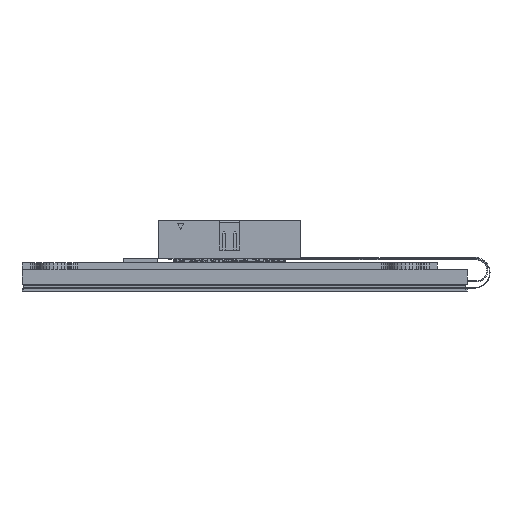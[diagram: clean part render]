
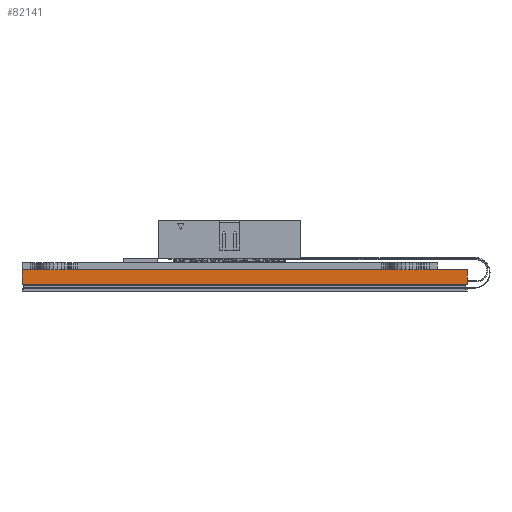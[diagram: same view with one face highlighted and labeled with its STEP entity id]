
A CAD part, left-side view. The second image highlights one B-rep face of the part: STEP entity #82141.
In plain terms, the highlighted planar face has unit normal (-1, 0, 0) by its records, which use the part's own axes.
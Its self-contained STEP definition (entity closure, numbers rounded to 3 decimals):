
#431 = CARTESIAN_POINT ( 'NONE',  ( -1.211, 34.312, -66.241 ) ) ;
#6678 = B_SPLINE_CURVE_WITH_KNOTS ( 'NONE', 3,
 ( #166711, #107319, #181593, #93111 ),
 .UNSPECIFIED., .F., .F.,
 ( 4, 4 ),
 ( 0., 1. ),
 .UNSPECIFIED. ) ;
#9944 = VERTEX_POINT ( 'NONE', #118751 ) ;
#11612 = DIRECTION ( 'NONE',  ( 1., 0., 0. ) ) ;
#15066 = CARTESIAN_POINT ( 'NONE',  ( -1.211, 31.978, -31.575 ) ) ;
#25844 = PLANE ( 'NONE',  #75635 ) ;
#28203 = CARTESIAN_POINT ( 'NONE',  ( -1.211, 31.978, 37.759 ) ) ;
#29944 = CARTESIAN_POINT ( 'NONE',  ( -1.211, 31.978, -66.241 ) ) ;
#37732 = EDGE_CURVE ( 'NONE', #181312, #9944, #62639, .T. ) ;
#43099 = CARTESIAN_POINT ( 'NONE',  ( -1.211, 33.145, 37.759 ) ) ;
#44324 = CARTESIAN_POINT ( 'NONE',  ( -1.211, 33.145, -66.241 ) ) ;
#44814 = CARTESIAN_POINT ( 'NONE',  ( -1.211, 31.978, 3.092 ) ) ;
#46052 = EDGE_LOOP ( 'NONE', ( #49750, #120637, #96006, #151847 ) ) ;
#49750 = ORIENTED_EDGE ( 'NONE', *, *, #145092, .T. ) ;
#50568 = B_SPLINE_CURVE_WITH_KNOTS ( 'NONE', 3,
 ( #29944, #15066, #44814, #148204 ),
 .UNSPECIFIED., .F., .F.,
 ( 4, 4 ),
 ( 0., 1. ),
 .UNSPECIFIED. ) ;
#54517 = CARTESIAN_POINT ( 'NONE',  ( -1.211, 35.478, 37.759 ) ) ;
#57977 = CARTESIAN_POINT ( 'NONE',  ( -1.211, 35.478, 37.759 ) ) ;
#59215 = CARTESIAN_POINT ( 'NONE',  ( -1.211, 31.978, -66.241 ) ) ;
#62639 = B_SPLINE_CURVE_WITH_KNOTS ( 'NONE', 3,
 ( #59215, #44324, #431, #103766 ),
 .UNSPECIFIED., .F., .F.,
 ( 4, 4 ),
 ( 0., 1. ),
 .UNSPECIFIED. ) ;
#66104 = EDGE_CURVE ( 'NONE', #85921, #9944, #6678, .T. ) ;
#75635 = AXIS2_PLACEMENT_3D ( 'NONE', #100158, #11612, #115093 ) ;
#82141 = ADVANCED_FACE ( 'NONE', ( #177721 ), #25844, .F. ) ;
#83377 = CARTESIAN_POINT ( 'NONE',  ( -1.211, 31.978, 37.759 ) ) ;
#85886 = B_SPLINE_CURVE_WITH_KNOTS ( 'NONE', 3,
 ( #28203, #43099, #146465, #57977 ),
 .UNSPECIFIED., .F., .F.,
 ( 4, 4 ),
 ( 0., 1. ),
 .UNSPECIFIED. ) ;
#85921 = VERTEX_POINT ( 'NONE', #54517 ) ;
#93111 = CARTESIAN_POINT ( 'NONE',  ( -1.211, 35.478, -66.241 ) ) ;
#96006 = ORIENTED_EDGE ( 'NONE', *, *, #37732, .F. ) ;
#100158 = CARTESIAN_POINT ( 'NONE',  ( -1.211, 31.978, 37.759 ) ) ;
#103766 = CARTESIAN_POINT ( 'NONE',  ( -1.211, 35.478, -66.241 ) ) ;
#106320 = EDGE_CURVE ( 'NONE', #181312, #115143, #50568, .T. ) ;
#107319 = CARTESIAN_POINT ( 'NONE',  ( -1.211, 35.478, 3.092 ) ) ;
#115093 = DIRECTION ( 'NONE',  ( 0., 0., -1. ) ) ;
#115143 = VERTEX_POINT ( 'NONE', #83377 ) ;
#118751 = CARTESIAN_POINT ( 'NONE',  ( -1.211, 35.478, -66.241 ) ) ;
#120637 = ORIENTED_EDGE ( 'NONE', *, *, #66104, .T. ) ;
#145092 = EDGE_CURVE ( 'NONE', #115143, #85921, #85886, .T. ) ;
#146465 = CARTESIAN_POINT ( 'NONE',  ( -1.211, 34.312, 37.759 ) ) ;
#148204 = CARTESIAN_POINT ( 'NONE',  ( -1.211, 31.978, 37.759 ) ) ;
#151847 = ORIENTED_EDGE ( 'NONE', *, *, #106320, .T. ) ;
#161886 = CARTESIAN_POINT ( 'NONE',  ( -1.211, 31.978, -66.241 ) ) ;
#166711 = CARTESIAN_POINT ( 'NONE',  ( -1.211, 35.478, 37.759 ) ) ;
#177721 = FACE_OUTER_BOUND ( 'NONE', #46052, .T. ) ;
#181312 = VERTEX_POINT ( 'NONE', #161886 ) ;
#181593 = CARTESIAN_POINT ( 'NONE',  ( -1.211, 35.478, -31.575 ) ) ;
